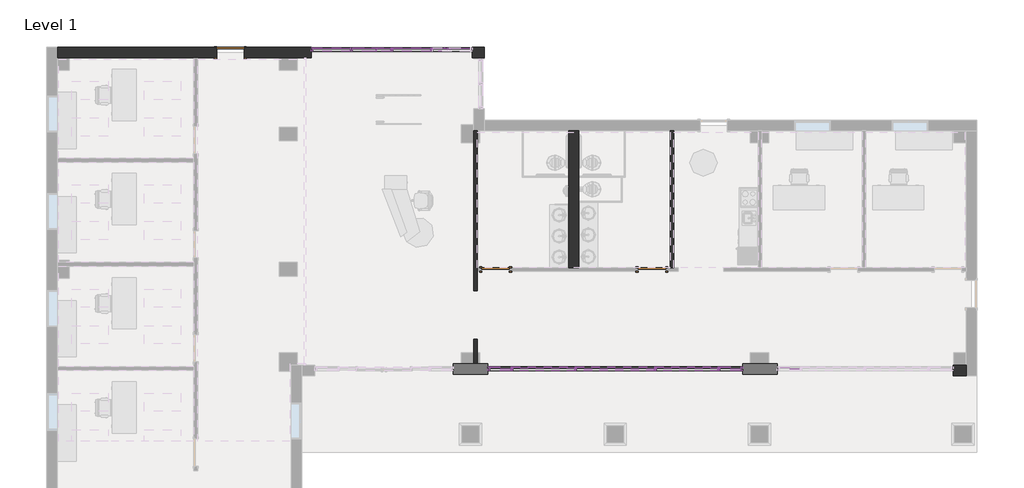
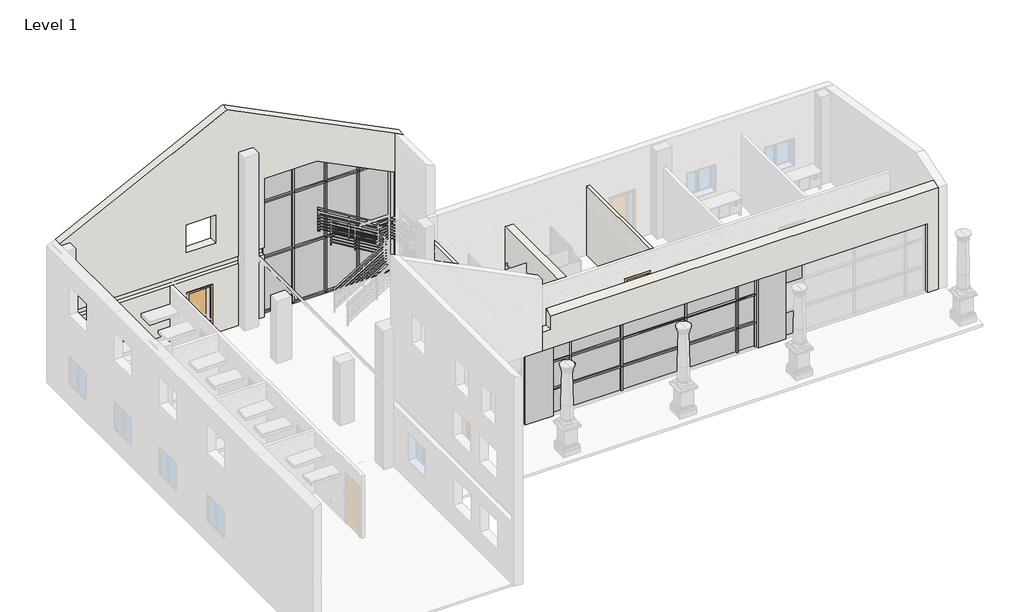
# One storey, part 2 of 8: 61 members, 31 plates, 6 walls, 3 doors.
"""IFC4 building model written with IfcOpenShell, lengths in millimetres."""

from ifc_helpers import new_model, si_unit, origin, origin_with_axes, place, context, project, spatial, polyline, outline, extrude, faceted_brep, transform, mapped, element, save
from components import door_cc5399a4, door_eb9f8b14, door_88503111, member_a715cb85, member_2b49869a, member_4f1c84db, member_e69b4e5a, member_c7c5a8a0, member_13dc6413, member_3374d9b6, member_830c086e, member_f0fea5a5, member_ee409385, member_d635bea1, member_5783932f, member_ba1b3d85, member_98b79ab6, member_75074519, member_badecc6f, member_07edb973, member_0f02f596, member_3c804400, member_398e82c5, member_1c7aa2bc, member_085bdbbf, system_panel_glazed_93fe6fa7, system_panel_glazed_6ce5e085, system_panel_glazed_63f474c4, system_panel_glazed_4b691734, system_panel_glazed_53b4157c, system_panel_glazed_7b5ce646, system_panel_glazed_b46f0795, system_panel_glazed_2dd6ead6, system_panel_glazed_6caac039, system_panel_glazed_878f6614, system_panel_glazed_8dfcc79d, system_panel_glazed_7753dd60, system_panel_glazed_25fb0b6d, system_panel_glazed_9d93dfa0, system_panel_glazed_35b7c7d0, system_panel_glazed_996dcb0c, system_panel_solid_fd037ff6, system_panel_solid_9d85a99c

model = new_model("IFC4")

# Units and contexts
model_context = context("Model", 3, world=origin())
ifc_project = project(units=[si_unit("LENGTHUNIT", "METRE", prefix="MILLI")], contexts=[model_context])

# Site, building, storey
site = spatial("IfcSite", under=ifc_project)
building = spatial("IfcBuilding", under=site)
storey = spatial("IfcBuildingStorey", under=building, Name="Level 1", Elevation=0.0)

# Doors
placement = place(None, origin())
door_shape = door_cc5399a4(model_context)
element("IfcDoor", 1, ObjectType="Single-Flush : 36\" x 84\"", at=placement, inside=storey, context=model_context, shape_type="MappedRepresentation", body=[
    mapped(door_shape, transform((-7789.3266552, 10744.9730424, 0.0), x_axis=(-1.0, 0.0, 0.0), y_axis=(0.0, -1.0, 0.0), z_axis=(0.0, 0.0, 1.0))),
])
door_2_shape = door_eb9f8b14(model_context)
element("IfcDoor", 2, ObjectType="Single-Flush : 36\" x 84\"", at=placement, inside=storey, context=model_context, shape_type="MappedRepresentation", body=[
    mapped(door_2_shape, transform((1075.2733448, 3496.4480424, 0.0), x_axis=(-1.0, 0.0, 0.0), y_axis=(0.0, -1.0, 0.0), z_axis=(0.0, 0.0, 1.0))),
])
door_3_shape = door_88503111(model_context)
element("IfcDoor", 3, ObjectType="Single-Flush : 36\" x 84\"", at=placement, inside=storey, context=model_context, shape_type="MappedRepresentation", body=[
    mapped(door_3_shape, transform((6294.9733448, 3496.4480424, 0.0), x_axis=(1.0, 0.0, 0.0), y_axis=(0.0, 1.0, 0.0), z_axis=(0.0, 0.0, 1.0))),
])

# Members
member_shape = member_a715cb85(model_context)
element("IfcMember", 4, ObjectType="Rectangular Mullion : 2.5\" x 5\" Rectangular", at=placement, inside=storey, context=model_context, shape_type="MappedRepresentation", body=[
    mapped(member_shape, transform((1611.8483448, 175.3980424, 0.0), x_axis=(1.0, 0.0, 0.0), y_axis=(0.0, -1.0, 0.0), z_axis=(0.0, 0.0, -1.0))),
])
element("IfcMember", 5, ObjectType="Rectangular Mullion : 2.5\" x 5\" Rectangular", at=placement, inside=storey, context=model_context, shape_type="MappedRepresentation", body=[
    mapped(member_shape, transform((3745.4483448, 175.3980424, 0.0), x_axis=(1.0, 0.0, 0.0), y_axis=(0.0, -1.0, 0.0), z_axis=(0.0, 0.0, -1.0))),
])
element("IfcMember", 6, ObjectType="Rectangular Mullion : 2.5\" x 5\" Rectangular", at=placement, inside=storey, context=model_context, shape_type="MappedRepresentation", body=[
    mapped(member_shape, transform((6404.5108448, 175.3980424, 0.0), x_axis=(1.0, 0.0, 0.0), y_axis=(0.0, -1.0, 0.0), z_axis=(0.0, 0.0, -1.0))),
])
element("IfcMember", 7, ObjectType="Rectangular Mullion : 2.5\" x 5\" Rectangular", at=placement, inside=storey, context=model_context, shape_type="MappedRepresentation", body=[
    mapped(member_shape, transform((849.8483448, 175.3980424, 0.0), x_axis=(1.0, 0.0, 0.0), y_axis=(0.0, -1.0, 0.0), z_axis=(0.0, 0.0, -1.0))),
])
element("IfcMember", 8, ObjectType="Rectangular Mullion : 2.5\" x 5\" Rectangular", at=placement, inside=storey, context=model_context, shape_type="MappedRepresentation", body=[
    mapped(member_shape, transform((8538.1108448, 175.3980424, 0.0), x_axis=(1.0, 0.0, 0.0), y_axis=(0.0, -1.0, 0.0), z_axis=(0.0, 0.0, -1.0))),
])
element("IfcMember", 9, ObjectType="Rectangular Mullion : 2.5\" x 5\" Rectangular", at=placement, inside=storey, context=model_context, shape_type="MappedRepresentation", body=[
    mapped(member_shape, transform((9300.1108448, 175.3980424, 0.0), x_axis=(1.0, 0.0, 0.0), y_axis=(0.0, -1.0, 0.0), z_axis=(0.0, 0.0, -1.0))),
])
member_2_shape = member_2b49869a(model_context)
element("IfcMember", 10, ObjectType="Rectangular Mullion : 2.5\" x 5\" Rectangular", at=placement, inside=storey, context=model_context, shape_type="MappedRepresentation", body=[
    mapped(member_2_shape, transform((1611.8483448, 175.3980424, 1066.8), x_axis=(1.0, 0.0, 0.0), y_axis=(0.0, -1.0, 0.0), z_axis=(0.0, 0.0, -1.0))),
])
element("IfcMember", 11, ObjectType="Rectangular Mullion : 2.5\" x 5\" Rectangular", at=placement, inside=storey, context=model_context, shape_type="MappedRepresentation", body=[
    mapped(member_2_shape, transform((3745.4483448, 175.3980424, 1066.8), x_axis=(1.0, 0.0, 0.0), y_axis=(0.0, -1.0, 0.0), z_axis=(0.0, 0.0, -1.0))),
])
element("IfcMember", 12, ObjectType="Rectangular Mullion : 2.5\" x 5\" Rectangular", at=placement, inside=storey, context=model_context, shape_type="MappedRepresentation", body=[
    mapped(member_2_shape, transform((6404.5108448, 175.3980424, 1066.8), x_axis=(1.0, 0.0, 0.0), y_axis=(0.0, -1.0, 0.0), z_axis=(0.0, 0.0, -1.0))),
])
element("IfcMember", 13, ObjectType="Rectangular Mullion : 2.5\" x 5\" Rectangular", at=placement, inside=storey, context=model_context, shape_type="MappedRepresentation", body=[
    mapped(member_2_shape, transform((849.8483448, 175.3980424, 1066.8), x_axis=(1.0, 0.0, 0.0), y_axis=(0.0, -1.0, 0.0), z_axis=(0.0, 0.0, -1.0))),
])
element("IfcMember", 14, ObjectType="Rectangular Mullion : 2.5\" x 5\" Rectangular", at=placement, inside=storey, context=model_context, shape_type="MappedRepresentation", body=[
    mapped(member_2_shape, transform((8538.1108448, 175.3980424, 1066.8), x_axis=(1.0, 0.0, 0.0), y_axis=(0.0, -1.0, 0.0), z_axis=(0.0, 0.0, -1.0))),
])
element("IfcMember", 15, ObjectType="Rectangular Mullion : 2.5\" x 5\" Rectangular", at=placement, inside=storey, context=model_context, shape_type="MappedRepresentation", body=[
    mapped(member_2_shape, transform((9300.1108448, 175.3980424, 1066.8), x_axis=(1.0, 0.0, 0.0), y_axis=(0.0, -1.0, 0.0), z_axis=(0.0, 0.0, -1.0))),
])
member_3_shape = member_4f1c84db(model_context)
element("IfcMember", 16, ObjectType="Rectangular Mullion : 2.5\" x 5\" Rectangular", at=placement, inside=storey, context=model_context, shape_type="MappedRepresentation", body=[
    mapped(member_3_shape, transform((3713.6983448, 175.3980424, 2286.0), x_axis=(0.0, 0.0, 1.0), y_axis=(0.0, -1.0, 0.0), z_axis=(1.0, 0.0, 0.0))),
])
element("IfcMember", 17, ObjectType="Rectangular Mullion : 2.5\" x 5\" Rectangular", at=placement, inside=storey, context=model_context, shape_type="MappedRepresentation", body=[
    mapped(member_3_shape, transform((8506.3608448, 175.3980424, 2286.0), x_axis=(0.0, 0.0, 1.0), y_axis=(0.0, -1.0, 0.0), z_axis=(1.0, 0.0, 0.0))),
])
element("IfcMember", 18, ObjectType="Rectangular Mullion : 2.5\" x 5\" Rectangular", at=placement, inside=storey, context=model_context, shape_type="MappedRepresentation", body=[
    mapped(member_3_shape, transform((8506.3608448, 175.3980424, 1066.8), x_axis=(0.0, 0.0, 1.0), y_axis=(0.0, -1.0, 0.0), z_axis=(1.0, 0.0, 0.0))),
])
element("IfcMember", 19, ObjectType="Rectangular Mullion : 2.5\" x 5\" Rectangular", at=placement, inside=storey, context=model_context, shape_type="MappedRepresentation", body=[
    mapped(member_3_shape, transform((3713.6983448, 175.3980424, 1066.8), x_axis=(0.0, 0.0, 1.0), y_axis=(0.0, -1.0, 0.0), z_axis=(1.0, 0.0, 0.0))),
])
member_4_shape = member_e69b4e5a(model_context)
element("IfcMember", 20, ObjectType="Rectangular Mullion : 2.5\" x 5\" Rectangular", at=placement, inside=storey, context=model_context, shape_type="MappedRepresentation", body=[
    mapped(member_4_shape, transform((6372.7608448, 175.3980424, 2286.0), x_axis=(0.0, 0.0, 1.0), y_axis=(0.0, -1.0, 0.0), z_axis=(1.0, 0.0, 0.0))),
])
element("IfcMember", 21, ObjectType="Rectangular Mullion : 2.5\" x 5\" Rectangular", at=placement, inside=storey, context=model_context, shape_type="MappedRepresentation", body=[
    mapped(member_4_shape, transform((6372.7608448, 175.3980424, 1066.8), x_axis=(0.0, 0.0, 1.0), y_axis=(0.0, -1.0, 0.0), z_axis=(1.0, 0.0, 0.0))),
])
member_5_shape = member_c7c5a8a0(model_context)
element("IfcMember", 22, ObjectType="Rectangular Mullion : 2.5\" x 5\" Rectangular", at=placement, inside=storey, context=model_context, shape_type="MappedRepresentation", body=[
    mapped(member_5_shape, transform((1580.0983448, 175.3980424, 2286.0), x_axis=(0.0, 0.0, 1.0), y_axis=(0.0, -1.0, 0.0), z_axis=(1.0, 0.0, 0.0))),
])
element("IfcMember", 23, ObjectType="Rectangular Mullion : 2.5\" x 5\" Rectangular", at=placement, inside=storey, context=model_context, shape_type="MappedRepresentation", body=[
    mapped(member_5_shape, transform((9268.3608448, 175.3980424, 2286.0), x_axis=(0.0, 0.0, 1.0), y_axis=(0.0, -1.0, 0.0), z_axis=(1.0, 0.0, 0.0))),
])
element("IfcMember", 24, ObjectType="Rectangular Mullion : 2.5\" x 5\" Rectangular", at=placement, inside=storey, context=model_context, shape_type="MappedRepresentation", body=[
    mapped(member_5_shape, transform((1580.0983448, 175.3980424, 1066.8), x_axis=(0.0, 0.0, 1.0), y_axis=(0.0, -1.0, 0.0), z_axis=(1.0, 0.0, 0.0))),
])
element("IfcMember", 25, ObjectType="Rectangular Mullion : 2.5\" x 5\" Rectangular", at=placement, inside=storey, context=model_context, shape_type="MappedRepresentation", body=[
    mapped(member_5_shape, transform((9268.3608448, 175.3980424, 1066.8), x_axis=(0.0, 0.0, 1.0), y_axis=(0.0, -1.0, 0.0), z_axis=(1.0, 0.0, 0.0))),
])
element("IfcMember", 26, ObjectType="Rectangular Mullion : 2.5\" x 5\" Rectangular", at=placement, inside=storey, context=model_context, shape_type="MappedRepresentation", body=[
    mapped(member_5_shape, transform((1611.8483448, 175.3980424, 2286.0), x_axis=(1.0, 0.0, 0.0), y_axis=(0.0, -1.0, 0.0), z_axis=(0.0, 0.0, -1.0))),
])
element("IfcMember", 27, ObjectType="Rectangular Mullion : 2.5\" x 5\" Rectangular", at=placement, inside=storey, context=model_context, shape_type="MappedRepresentation", body=[
    mapped(member_5_shape, transform((3745.4483448, 175.3980424, 2286.0), x_axis=(1.0, 0.0, 0.0), y_axis=(0.0, -1.0, 0.0), z_axis=(0.0, 0.0, -1.0))),
])
element("IfcMember", 28, ObjectType="Rectangular Mullion : 2.5\" x 5\" Rectangular", at=placement, inside=storey, context=model_context, shape_type="MappedRepresentation", body=[
    mapped(member_5_shape, transform((6404.5108448, 175.3980424, 2286.0), x_axis=(1.0, 0.0, 0.0), y_axis=(0.0, -1.0, 0.0), z_axis=(0.0, 0.0, -1.0))),
])
element("IfcMember", 29, ObjectType="Rectangular Mullion : 2.5\" x 5\" Rectangular", at=placement, inside=storey, context=model_context, shape_type="MappedRepresentation", body=[
    mapped(member_5_shape, transform((849.8483448, 175.3980424, 2286.0), x_axis=(1.0, 0.0, 0.0), y_axis=(0.0, -1.0, 0.0), z_axis=(0.0, 0.0, -1.0))),
])
element("IfcMember", 30, ObjectType="Rectangular Mullion : 2.5\" x 5\" Rectangular", at=placement, inside=storey, context=model_context, shape_type="MappedRepresentation", body=[
    mapped(member_5_shape, transform((8538.1108448, 175.3980424, 2286.0), x_axis=(1.0, 0.0, 0.0), y_axis=(0.0, -1.0, 0.0), z_axis=(0.0, 0.0, -1.0))),
])
element("IfcMember", 31, ObjectType="Rectangular Mullion : 2.5\" x 5\" Rectangular", at=placement, inside=storey, context=model_context, shape_type="MappedRepresentation", body=[
    mapped(member_5_shape, transform((9300.1108448, 175.3980424, 2286.0), x_axis=(1.0, 0.0, 0.0), y_axis=(0.0, -1.0, 0.0), z_axis=(0.0, 0.0, -1.0))),
])
member_6_shape = member_13dc6413(model_context)
element("IfcMember", 32, ObjectType="Rectangular Mullion : 2.5\" x 5\" Rectangular", at=placement, inside=storey, context=model_context, shape_type="MappedRepresentation", body=[
    mapped(member_6_shape, transform((9331.8608448, 175.3980424, 3048.0), x_axis=(0.0, 0.0, 1.0), y_axis=(0.0, -1.0, 0.0), z_axis=(1.0, 0.0, 0.0))),
])
element("IfcMember", 33, ObjectType="Rectangular Mullion : 2.5\" x 5\" Rectangular", at=placement, inside=storey, context=model_context, shape_type="MappedRepresentation", body=[
    mapped(member_6_shape, transform((1611.8483448, 175.3980424, 3048.0), x_axis=(0.0, 0.0, 1.0), y_axis=(0.0, -1.0, 0.0), z_axis=(1.0, 0.0, 0.0))),
])
member_7_shape = member_3374d9b6(model_context)
element("IfcMember", 34, ObjectType="Rectangular Mullion : 2.5\" x 5\" Rectangular", at=placement, inside=storey, context=model_context, shape_type="MappedRepresentation", body=[
    mapped(member_7_shape, transform((3745.4483448, 175.3980424, 3048.0), x_axis=(0.0, 0.0, 1.0), y_axis=(0.0, -1.0, 0.0), z_axis=(1.0, 0.0, 0.0))),
])
element("IfcMember", 35, ObjectType="Rectangular Mullion : 2.5\" x 5\" Rectangular", at=placement, inside=storey, context=model_context, shape_type="MappedRepresentation", body=[
    mapped(member_7_shape, transform((8538.1108448, 175.3980424, 3048.0), x_axis=(0.0, 0.0, 1.0), y_axis=(0.0, -1.0, 0.0), z_axis=(1.0, 0.0, 0.0))),
])
member_8_shape = member_830c086e(model_context)
element("IfcMember", 36, ObjectType="Rectangular Mullion : 2.5\" x 5\" Rectangular", at=placement, inside=storey, context=model_context, shape_type="MappedRepresentation", body=[
    mapped(member_8_shape, transform((6404.5108448, 175.3980424, 3048.0), x_axis=(0.0, 0.0, 1.0), y_axis=(0.0, -1.0, 0.0), z_axis=(1.0, 0.0, 0.0))),
])
member_9_shape = member_f0fea5a5(model_context)
element("IfcMember", 37, ObjectType="Rectangular Mullion : 2.5\" x 5\" Rectangular", at=placement, inside=storey, context=model_context, shape_type="MappedRepresentation", body=[
    mapped(member_9_shape, transform((-3747.5516552, 10846.5730424, 0.0), x_axis=(1.0, 0.0, 0.0), y_axis=(0.0, -1.0, 0.0), z_axis=(0.0, 0.0, -1.0))),
])
element("IfcMember", 38, ObjectType="Rectangular Mullion : 2.5\" x 5\" Rectangular", at=placement, inside=storey, context=model_context, shape_type="MappedRepresentation", body=[
    mapped(member_9_shape, transform((-2401.3516552, 10846.5730424, 0.0), x_axis=(1.0, 0.0, 0.0), y_axis=(0.0, -1.0, 0.0), z_axis=(0.0, 0.0, -1.0))),
])
element("IfcMember", 39, ObjectType="Rectangular Mullion : 2.5\" x 5\" Rectangular", at=placement, inside=storey, context=model_context, shape_type="MappedRepresentation", body=[
    mapped(member_9_shape, transform((-1055.1516552, 10846.5730424, 0.0), x_axis=(1.0, 0.0, 0.0), y_axis=(0.0, -1.0, 0.0), z_axis=(0.0, 0.0, -1.0))),
])
member_10_shape = member_ee409385(model_context)
element("IfcMember", 40, ObjectType="Rectangular Mullion : 2.5\" x 5\" Rectangular", at=placement, inside=storey, context=model_context, shape_type="MappedRepresentation", body=[
    mapped(member_10_shape, transform((-5093.7516552, 10846.5730424, 2438.4), x_axis=(-1.0, 0.0, 0.0), y_axis=(0.0, -1.0, 0.0), z_axis=(0.0, 0.0, 1.0))),
])
member_11_shape = member_d635bea1(model_context)
element("IfcMember", 41, ObjectType="Rectangular Mullion : 2.5\" x 5\" Rectangular", at=placement, inside=storey, context=model_context, shape_type="MappedRepresentation", body=[
    mapped(member_11_shape, transform((-5030.2516552, 10846.5730424, 0.0), x_axis=(0.0, 0.0, -1.0), y_axis=(0.0, -1.0, 0.0), z_axis=(-1.0, 0.0, 0.0))),
])
element("IfcMember", 42, ObjectType="Rectangular Mullion : 2.5\" x 5\" Rectangular", at=placement, inside=storey, context=model_context, shape_type="MappedRepresentation", body=[
    mapped(member_11_shape, transform((-1023.4016552, 10846.5730424, 0.0), x_axis=(0.0, 0.0, -1.0), y_axis=(0.0, -1.0, 0.0), z_axis=(-1.0, 0.0, 0.0))),
])
member_12_shape = member_5783932f(model_context)
element("IfcMember", 43, ObjectType="Rectangular Mullion : 2.5\" x 5\" Rectangular", at=placement, inside=storey, context=model_context, shape_type="MappedRepresentation", body=[
    mapped(member_12_shape, transform((-3715.8016552, 10846.5730424, 0.0), x_axis=(0.0, 0.0, -1.0), y_axis=(0.0, -1.0, 0.0), z_axis=(-1.0, 0.0, 0.0))),
])
element("IfcMember", 44, ObjectType="Rectangular Mullion : 2.5\" x 5\" Rectangular", at=placement, inside=storey, context=model_context, shape_type="MappedRepresentation", body=[
    mapped(member_12_shape, transform((-2369.6016552, 10846.5730424, 0.0), x_axis=(0.0, 0.0, -1.0), y_axis=(0.0, -1.0, 0.0), z_axis=(-1.0, 0.0, 0.0))),
])
member_13_shape = member_ba1b3d85(model_context)
element("IfcMember", 45, ObjectType="Rectangular Mullion : 2.5\" x 5\" Rectangular", at=placement, inside=storey, context=model_context, shape_type="MappedRepresentation", body=[
    mapped(member_13_shape, transform((-3779.3016552, 10846.5730424, 2438.4), x_axis=(0.0, 0.0, 1.0), y_axis=(0.0, -1.0, 0.0), z_axis=(1.0, 0.0, 0.0))),
])
element("IfcMember", 46, ObjectType="Rectangular Mullion : 2.5\" x 5\" Rectangular", at=placement, inside=storey, context=model_context, shape_type="MappedRepresentation", body=[
    mapped(member_13_shape, transform((-3779.3016552, 10846.5730424, 4876.8), x_axis=(0.0, 0.0, 1.0), y_axis=(0.0, -1.0, 0.0), z_axis=(1.0, 0.0, 0.0))),
])
member_14_shape = member_98b79ab6(model_context)
element("IfcMember", 47, ObjectType="Rectangular Mullion : 2.5\" x 5\" Rectangular", at=placement, inside=storey, context=model_context, shape_type="MappedRepresentation", body=[
    mapped(member_14_shape, transform((-2433.1016552, 10846.5730424, 2438.4), x_axis=(0.0, 0.0, 1.0), y_axis=(0.0, -1.0, 0.0), z_axis=(1.0, 0.0, 0.0))),
])
element("IfcMember", 48, ObjectType="Rectangular Mullion : 2.5\" x 5\" Rectangular", at=placement, inside=storey, context=model_context, shape_type="MappedRepresentation", body=[
    mapped(member_14_shape, transform((-1086.9016552, 10846.5730424, 2438.4), x_axis=(0.0, 0.0, 1.0), y_axis=(0.0, -1.0, 0.0), z_axis=(1.0, 0.0, 0.0))),
])
element("IfcMember", 49, ObjectType="Rectangular Mullion : 2.5\" x 5\" Rectangular", at=placement, inside=storey, context=model_context, shape_type="MappedRepresentation", body=[
    mapped(member_14_shape, transform((-2433.1016552, 10846.5730424, 4876.8), x_axis=(0.0, 0.0, 1.0), y_axis=(0.0, -1.0, 0.0), z_axis=(1.0, 0.0, 0.0))),
])
element("IfcMember", 50, ObjectType="Rectangular Mullion : 2.5\" x 5\" Rectangular", at=placement, inside=storey, context=model_context, shape_type="MappedRepresentation", body=[
    mapped(member_14_shape, transform((-1086.9016552, 10846.5730424, 4876.8), x_axis=(0.0, 0.0, 1.0), y_axis=(0.0, -1.0, 0.0), z_axis=(1.0, 0.0, 0.0))),
])
element("IfcMember", 51, ObjectType="Rectangular Mullion : 2.5\" x 5\" Rectangular", at=placement, inside=storey, context=model_context, shape_type="MappedRepresentation", body=[
    mapped(member_11_shape, transform((-3779.3016552, 10846.5730424, 6096.0), x_axis=(0.0, 0.0, 1.0), y_axis=(0.0, -1.0, 0.0), z_axis=(1.0, 0.0, 0.0))),
])
element("IfcMember", 52, ObjectType="Rectangular Mullion : 2.5\" x 5\" Rectangular", at=placement, inside=storey, context=model_context, shape_type="MappedRepresentation", body=[
    mapped(member_9_shape, transform((-3747.5516552, 10846.5730424, 2438.4), x_axis=(1.0, 0.0, 0.0), y_axis=(0.0, -1.0, 0.0), z_axis=(0.0, 0.0, -1.0))),
])
element("IfcMember", 53, ObjectType="Rectangular Mullion : 2.5\" x 5\" Rectangular", at=placement, inside=storey, context=model_context, shape_type="MappedRepresentation", body=[
    mapped(member_9_shape, transform((-2401.3516552, 10846.5730424, 2438.4), x_axis=(1.0, 0.0, 0.0), y_axis=(0.0, -1.0, 0.0), z_axis=(0.0, 0.0, -1.0))),
])
element("IfcMember", 54, ObjectType="Rectangular Mullion : 2.5\" x 5\" Rectangular", at=placement, inside=storey, context=model_context, shape_type="MappedRepresentation", body=[
    mapped(member_9_shape, transform((-1055.1516552, 10846.5730424, 2438.4), x_axis=(1.0, 0.0, 0.0), y_axis=(0.0, -1.0, 0.0), z_axis=(0.0, 0.0, -1.0))),
])
element("IfcMember", 55, ObjectType="Rectangular Mullion : 2.5\" x 5\" Rectangular", at=placement, inside=storey, context=model_context, shape_type="MappedRepresentation", body=[
    mapped(member_2_shape, transform((-3747.5516552, 10846.5730424, 4876.8), x_axis=(1.0, 0.0, 0.0), y_axis=(0.0, -1.0, 0.0), z_axis=(0.0, 0.0, -1.0))),
])
member_15_shape = member_75074519(model_context)
element("IfcMember", 56, ObjectType="Rectangular Mullion : 2.5\" x 5\" Rectangular", at=placement, inside=storey, context=model_context, shape_type="MappedRepresentation", body=[
    mapped(member_15_shape, transform((-5093.7516552, 10846.5730424, 6096.0), x_axis=(-1.0, 0.0, 0.0), y_axis=(0.0, -1.0, 0.0), z_axis=(0.0, 0.0, 1.0))),
])
element("IfcMember", 57, ObjectType="Rectangular Mullion : 2.5\" x 5\" Rectangular", at=placement, inside=storey, context=model_context, shape_type="MappedRepresentation", body=[
    mapped(member_10_shape, transform((-5093.7516552, 10846.5730424, 4876.8), x_axis=(-1.0, 0.0, 0.0), y_axis=(0.0, -1.0, 0.0), z_axis=(0.0, 0.0, 1.0))),
])
member_16_shape = member_badecc6f(model_context)
element("IfcMember", 58, ObjectType="Rectangular Mullion : 2.5\" x 5\" Rectangular", at=placement, inside=storey, context=model_context, shape_type="MappedRepresentation", body=[
    mapped(member_16_shape, transform((-2900.8192529, 10846.5730424, 6096.0), x_axis=(0.0, 0.0, 1.0), y_axis=(0.0, -1.0, 0.0), z_axis=(1.0, 0.0, 0.0))),
])
member_17_shape = member_07edb973(model_context)
element("IfcMember", 59, ObjectType="Rectangular Mullion : 2.5\" x 5\" Rectangular", at=placement, inside=storey, context=model_context, shape_type="MappedRepresentation", body=[
    mapped(member_17_shape, transform((-2401.3516552, 10846.5730424, 4876.8), x_axis=(1.0, 0.0, 0.0), y_axis=(0.0, -1.0, 0.0), z_axis=(0.0, 0.0, -1.0))),
])
member_18_shape = member_0f02f596(model_context)
element("IfcMember", 60, ObjectType="Rectangular Mullion : 2.5\" x 5\" Rectangular", at=placement, inside=storey, context=model_context, shape_type="MappedRepresentation", body=[
    mapped(member_18_shape, transform((-1055.1516552, 10846.5730424, 4876.8), x_axis=(1.0, 0.0, 0.0), y_axis=(0.0, -1.0, 0.0), z_axis=(0.0, 0.0, -1.0))),
])
member_19_shape = member_3c804400(model_context)
element("IfcMember", 61, ObjectType="Rectangular Mullion : 2.5\" x 5\" Rectangular", at=placement, inside=storey, context=model_context, shape_type="MappedRepresentation", body=[
    mapped(member_19_shape, transform((-462.4192529, 10846.5730424, 4876.8), x_axis=(0.0, 0.0, 1.0), y_axis=(0.0, -1.0, 0.0), z_axis=(1.0, 0.0, 0.0))),
])
member_20_shape = member_398e82c5(model_context)
element("IfcMember", 62, ObjectType="Rectangular Mullion : 2.5\" x 5\" Rectangular", at=placement, inside=storey, context=model_context, shape_type="MappedRepresentation", body=[
    mapped(member_20_shape, transform((-2401.3516552, 10846.5730424, 5846.2662011), x_axis=(0.44721359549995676, 0.0, 0.8944271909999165), y_axis=(0.0, -1.0, 0.0), z_axis=(0.8944271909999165, 0.0, -0.44721359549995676))),
])
member_21_shape = member_1c7aa2bc(model_context)
element("IfcMember", 63, ObjectType="Rectangular Mullion : 2.5\" x 5\" Rectangular", at=placement, inside=storey, context=model_context, shape_type="MappedRepresentation", body=[
    mapped(member_21_shape, transform((-1055.1516552, 10846.5730424, 5173.1662011), x_axis=(0.44721359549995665, 0.0, 0.8944271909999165), y_axis=(0.0, -1.0, 0.0), z_axis=(0.8944271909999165, 0.0, -0.44721359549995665))),
])
member_22_shape = member_085bdbbf(model_context)
element("IfcMember", 64, ObjectType="Rectangular Mullion : 2.5\" x 5\" Rectangular", at=placement, inside=storey, context=model_context, shape_type="MappedRepresentation", body=[
    mapped(member_22_shape, transform((-462.4192529, 10846.5730424, 4876.8), x_axis=(0.4472135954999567, 0.0, 0.8944271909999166), y_axis=(0.0, -1.0, 0.0), z_axis=(0.8944271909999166, 0.0, -0.4472135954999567))),
])

# Plates
element("IfcPlate", 65, ObjectType="Exterior - Brick on Mtl. Stud", at=placement, inside=storey, context=model_context, shape_type="Brep", body=[
    faceted_brep([(-337.6016552, -0.8144576, 0.0), (818.0983448, -0.8144576, 0.0), (818.0983448, -0.8144576, 3048.0), (-337.6016552, -0.8144576, 3048.0), (-337.6016552, 351.6105424, 0.0), (-337.6016552, 351.6105424, 3048.0), (-67.7266552, 351.6105424, 3048.0), (341.8483448, 351.6105424, 3048.0), (465.6733448, 351.6105424, 3048.0), (541.8733448, 351.6105424, 3048.0), (818.0983448, 351.6105424, 3048.0), (818.0983448, 351.6105424, 0.0), (541.8733448, 351.6105424, 0.0), (465.6733448, 351.6105424, 0.0), (341.8483448, 351.6105424, 0.0), (-67.7266552, 351.6105424, 0.0)], [[[0, 1, 2, 3]], [[4, 5, 6, 7, 8, 9, 10, 11, 12, 13, 14, 15]], [[1, 0, 4, 15, 14, 13, 12, 11]], [[2, 1, 11, 10]], [[3, 2, 10, 9, 8, 7, 6, 5]], [[0, 3, 5, 4]]]),
])
element("IfcPlate", 66, ObjectType="Exterior - Brick on Mtl. Stud", at=placement, inside=storey, context=model_context, shape_type="Brep", body=[
    faceted_brep([(9331.8608448, -0.8144576, 0.0), (10487.5608448, -0.8144576, 0.0), (10487.5608448, -0.8144576, 3048.0), (9331.8608448, -0.8144576, 3048.0), (9331.8608448, 351.6105424, 0.0), (9331.8608448, 351.6105424, 3048.0), (9587.4483448, 351.6105424, 3048.0), (10197.0483448, 351.6105424, 3048.0), (10487.5608448, 351.6105424, 3048.0), (10487.5608448, 351.6105424, 0.0), (10197.0483448, 351.6105424, 0.0), (9587.4483448, 351.6105424, 0.0)], [[[0, 1, 2, 3]], [[4, 5, 6, 7, 8, 9, 10, 11]], [[1, 0, 4, 11, 10, 9]], [[2, 1, 9, 8]], [[3, 2, 8, 7, 6, 5]], [[0, 3, 5, 4]]]),
])
system_panel_glazed_shape = system_panel_glazed_93fe6fa7(model_context)
element("IfcPlate", 67, ObjectType="System Panel : Glazed", at=placement, inside=storey, context=model_context, shape_type="MappedRepresentation", body=[
    mapped(system_panel_glazed_shape, transform((2678.6483448, 175.3980424, 0.0), x_axis=(1.0, 0.0, 0.0), y_axis=(0.0, 1.0, 0.0), z_axis=(0.0, 0.0, 1.0))),
])
element("IfcPlate", 68, ObjectType="System Panel : Glazed", at=placement, inside=storey, context=model_context, shape_type="MappedRepresentation", body=[
    mapped(system_panel_glazed_shape, transform((7471.3108448, 175.3980424, 0.0), x_axis=(1.0, 0.0, 0.0), y_axis=(0.0, 1.0, 0.0), z_axis=(0.0, 0.0, 1.0))),
])
system_panel_glazed_2_shape = system_panel_glazed_6ce5e085(model_context)
element("IfcPlate", 69, ObjectType="System Panel : Glazed", at=placement, inside=storey, context=model_context, shape_type="MappedRepresentation", body=[
    mapped(system_panel_glazed_2_shape, transform((2678.6483448, 175.3980424, 1098.55), x_axis=(1.0, 0.0, 0.0), y_axis=(0.0, 1.0, 0.0), z_axis=(0.0, 0.0, 1.0))),
])
element("IfcPlate", 70, ObjectType="System Panel : Glazed", at=placement, inside=storey, context=model_context, shape_type="MappedRepresentation", body=[
    mapped(system_panel_glazed_2_shape, transform((7471.3108448, 175.3980424, 1098.55), x_axis=(1.0, 0.0, 0.0), y_axis=(0.0, 1.0, 0.0), z_axis=(0.0, 0.0, 1.0))),
])
system_panel_glazed_3_shape = system_panel_glazed_63f474c4(model_context)
element("IfcPlate", 71, ObjectType="System Panel : Glazed", at=placement, inside=storey, context=model_context, shape_type="MappedRepresentation", body=[
    mapped(system_panel_glazed_3_shape, transform((5074.9795948, 175.3980424, 0.0), x_axis=(1.0, 0.0, 0.0), y_axis=(0.0, 1.0, 0.0), z_axis=(0.0, 0.0, 1.0))),
])
system_panel_glazed_4_shape = system_panel_glazed_4b691734(model_context)
element("IfcPlate", 72, ObjectType="System Panel : Glazed", at=placement, inside=storey, context=model_context, shape_type="MappedRepresentation", body=[
    mapped(system_panel_glazed_4_shape, transform((5074.9795948, 175.3980424, 1098.55), x_axis=(1.0, 0.0, 0.0), y_axis=(0.0, 1.0, 0.0), z_axis=(0.0, 0.0, 1.0))),
])
system_panel_glazed_5_shape = system_panel_glazed_53b4157c(model_context)
element("IfcPlate", 73, ObjectType="System Panel : Glazed", at=placement, inside=storey, context=model_context, shape_type="MappedRepresentation", body=[
    mapped(system_panel_glazed_5_shape, transform((1230.8483448, 175.3980424, 0.0), x_axis=(1.0, 0.0, 0.0), y_axis=(0.0, 1.0, 0.0), z_axis=(0.0, 0.0, 1.0))),
])
element("IfcPlate", 74, ObjectType="System Panel : Glazed", at=placement, inside=storey, context=model_context, shape_type="MappedRepresentation", body=[
    mapped(system_panel_glazed_5_shape, transform((10900.3108448, 175.3980424, 0.0), x_axis=(1.0, 0.0, 0.0), y_axis=(0.0, 1.0, 0.0), z_axis=(0.0, 0.0, 1.0))),
])
element("IfcPlate", 75, ObjectType="System Panel : Glazed", at=placement, inside=storey, context=model_context, shape_type="MappedRepresentation", body=[
    mapped(system_panel_glazed_5_shape, transform((8919.1108448, 175.3980424, 0.0), x_axis=(1.0, 0.0, 0.0), y_axis=(0.0, 1.0, 0.0), z_axis=(0.0, 0.0, 1.0))),
])
system_panel_glazed_6_shape = system_panel_glazed_7b5ce646(model_context)
element("IfcPlate", 76, ObjectType="System Panel : Glazed", at=placement, inside=storey, context=model_context, shape_type="MappedRepresentation", body=[
    mapped(system_panel_glazed_6_shape, transform((1230.8483448, 175.3980424, 1098.55), x_axis=(1.0, 0.0, 0.0), y_axis=(0.0, 1.0, 0.0), z_axis=(0.0, 0.0, 1.0))),
])
element("IfcPlate", 77, ObjectType="System Panel : Glazed", at=placement, inside=storey, context=model_context, shape_type="MappedRepresentation", body=[
    mapped(system_panel_glazed_6_shape, transform((8919.1108448, 175.3980424, 1098.55), x_axis=(1.0, 0.0, 0.0), y_axis=(0.0, 1.0, 0.0), z_axis=(0.0, 0.0, 1.0))),
])
system_panel_glazed_7_shape = system_panel_glazed_b46f0795(model_context)
element("IfcPlate", 78, ObjectType="System Panel : Glazed", at=placement, inside=storey, context=model_context, shape_type="MappedRepresentation", body=[
    mapped(system_panel_glazed_7_shape, transform((2678.6483448, 175.3980424, 2317.75), x_axis=(1.0, 0.0, 0.0), y_axis=(0.0, 1.0, 0.0), z_axis=(0.0, 0.0, 1.0))),
])
element("IfcPlate", 79, ObjectType="System Panel : Glazed", at=placement, inside=storey, context=model_context, shape_type="MappedRepresentation", body=[
    mapped(system_panel_glazed_7_shape, transform((7471.3108448, 175.3980424, 2317.75), x_axis=(1.0, 0.0, 0.0), y_axis=(0.0, 1.0, 0.0), z_axis=(0.0, 0.0, 1.0))),
])
system_panel_glazed_8_shape = system_panel_glazed_2dd6ead6(model_context)
element("IfcPlate", 80, ObjectType="System Panel : Glazed", at=placement, inside=storey, context=model_context, shape_type="MappedRepresentation", body=[
    mapped(system_panel_glazed_8_shape, transform((-4404.7766552, 10846.5730424, 63.5), x_axis=(1.0, 0.0, 0.0), y_axis=(0.0, 1.0, 0.0), z_axis=(0.0, 0.0, 1.0))),
])
element("IfcPlate", 81, ObjectType="System Panel : Glazed", at=placement, inside=storey, context=model_context, shape_type="MappedRepresentation", body=[
    mapped(system_panel_glazed_8_shape, transform((-397.9266552, 10846.5730424, 63.5), x_axis=(1.0, 0.0, 0.0), y_axis=(0.0, 1.0, 0.0), z_axis=(0.0, 0.0, 1.0))),
])
system_panel_glazed_9_shape = system_panel_glazed_6caac039(model_context)
element("IfcPlate", 82, ObjectType="System Panel : Glazed", at=placement, inside=storey, context=model_context, shape_type="MappedRepresentation", body=[
    mapped(system_panel_glazed_9_shape, transform((-3074.4516552, 10846.5730424, 63.5), x_axis=(1.0, 0.0, 0.0), y_axis=(0.0, 1.0, 0.0), z_axis=(0.0, 0.0, 1.0))),
])
element("IfcPlate", 83, ObjectType="System Panel : Glazed", at=placement, inside=storey, context=model_context, shape_type="MappedRepresentation", body=[
    mapped(system_panel_glazed_9_shape, transform((-1728.2516552, 10846.5730424, 63.5), x_axis=(1.0, 0.0, 0.0), y_axis=(0.0, 1.0, 0.0), z_axis=(0.0, 0.0, 1.0))),
])
system_panel_glazed_10_shape = system_panel_glazed_878f6614(model_context)
element("IfcPlate", 84, ObjectType="System Panel : Glazed", at=placement, inside=storey, context=model_context, shape_type="MappedRepresentation", body=[
    mapped(system_panel_glazed_10_shape, transform((-4404.7766552, 10846.5730424, 2470.15), x_axis=(1.0, 0.0, 0.0), y_axis=(0.0, 1.0, 0.0), z_axis=(0.0, 0.0, 1.0))),
])
system_panel_glazed_11_shape = system_panel_glazed_8dfcc79d(model_context)
element("IfcPlate", 85, ObjectType="System Panel : Glazed", at=placement, inside=storey, context=model_context, shape_type="MappedRepresentation", body=[
    mapped(system_panel_glazed_11_shape, transform((-3074.4516552, 10846.5730424, 2470.15), x_axis=(1.0, 0.0, 0.0), y_axis=(0.0, 1.0, 0.0), z_axis=(0.0, 0.0, 1.0))),
])
element("IfcPlate", 86, ObjectType="System Panel : Glazed", at=placement, inside=storey, context=model_context, shape_type="MappedRepresentation", body=[
    mapped(system_panel_glazed_11_shape, transform((-1728.2516552, 10846.5730424, 2470.15), x_axis=(1.0, 0.0, 0.0), y_axis=(0.0, 1.0, 0.0), z_axis=(0.0, 0.0, 1.0))),
])
system_panel_glazed_12_shape = system_panel_glazed_7753dd60(model_context)
element("IfcPlate", 87, ObjectType="System Panel : Glazed", at=placement, inside=storey, context=model_context, shape_type="MappedRepresentation", body=[
    mapped(system_panel_glazed_12_shape, transform((-4404.7766552, 10846.5730424, 4908.55), x_axis=(1.0, 0.0, 0.0), y_axis=(0.0, 1.0, 0.0), z_axis=(0.0, 0.0, 1.0))),
])
system_panel_glazed_13_shape = system_panel_glazed_25fb0b6d(model_context)
element("IfcPlate", 88, ObjectType="System Panel : Glazed", at=placement, inside=storey, context=model_context, shape_type="MappedRepresentation", body=[
    mapped(system_panel_glazed_13_shape, transform((-397.9266552, 10846.5730424, 2470.15), x_axis=(1.0, 0.0, 0.0), y_axis=(0.0, 1.0, 0.0), z_axis=(0.0, 0.0, 1.0))),
])
system_panel_glazed_14_shape = system_panel_glazed_9d93dfa0(model_context)
element("IfcPlate", 89, ObjectType="System Panel : Glazed", at=placement, inside=storey, context=model_context, shape_type="MappedRepresentation", body=[
    mapped(system_panel_glazed_14_shape, transform((-3074.4516552, 10846.5730424, 4908.55), x_axis=(1.0, 0.0, 0.0), y_axis=(0.0, 1.0, 0.0), z_axis=(0.0, 0.0, 1.0))),
])
system_panel_glazed_15_shape = system_panel_glazed_35b7c7d0(model_context)
element("IfcPlate", 90, ObjectType="System Panel : Glazed", at=placement, inside=storey, context=model_context, shape_type="MappedRepresentation", body=[
    mapped(system_panel_glazed_15_shape, transform((-1728.2516552, 10846.5730424, 4908.55), x_axis=(1.0, 0.0, 0.0), y_axis=(0.0, 1.0, 0.0), z_axis=(0.0, 0.0, 1.0))),
])
system_panel_glazed_16_shape = system_panel_glazed_996dcb0c(model_context)
element("IfcPlate", 91, ObjectType="System Panel : Glazed", at=placement, inside=storey, context=model_context, shape_type="MappedRepresentation", body=[
    mapped(system_panel_glazed_16_shape, transform((-845.6556123, 10846.5730424, 4908.55), x_axis=(1.0, 0.0, 0.0), y_axis=(0.0, 1.0, 0.0), z_axis=(0.0, 0.0, 1.0))),
])
system_panel_solid_shape = system_panel_solid_fd037ff6(model_context)
element("IfcPlate", 92, ObjectType="System Panel : Solid", at=placement, inside=storey, context=model_context, shape_type="MappedRepresentation", body=[
    mapped(system_panel_solid_shape, transform((1230.8483448, 175.3980424, 2317.75), x_axis=(1.0, 0.0, 0.0), y_axis=(0.0, 1.0, 0.0), z_axis=(0.0, 0.0, 1.0))),
])
element("IfcPlate", 93, ObjectType="System Panel : Solid", at=placement, inside=storey, context=model_context, shape_type="MappedRepresentation", body=[
    mapped(system_panel_solid_shape, transform((10900.3108448, 175.3980424, 2317.75), x_axis=(1.0, 0.0, 0.0), y_axis=(0.0, 1.0, 0.0), z_axis=(0.0, 0.0, 1.0))),
])
element("IfcPlate", 94, ObjectType="System Panel : Solid", at=placement, inside=storey, context=model_context, shape_type="MappedRepresentation", body=[
    mapped(system_panel_solid_shape, transform((8919.1108448, 175.3980424, 2317.75), x_axis=(1.0, 0.0, 0.0), y_axis=(0.0, 1.0, 0.0), z_axis=(0.0, 0.0, 1.0))),
])
system_panel_solid_2_shape = system_panel_solid_9d85a99c(model_context)
element("IfcPlate", 95, ObjectType="System Panel : Solid", at=placement, inside=storey, context=model_context, shape_type="MappedRepresentation", body=[
    mapped(system_panel_solid_2_shape, transform((5074.9795948, 175.3980424, 2317.75), x_axis=(1.0, 0.0, 0.0), y_axis=(0.0, 1.0, 0.0), z_axis=(0.0, 0.0, 1.0))),
])

# Walls
element("IfcWall", 96, ObjectType="Exterior - Brick on Mtl. Stud", at=placement, inside=storey, context=model_context, shape_type="Brep", body=[
    faceted_brep([(-8246.5266552, 10568.7605424, 0.0), (-8246.5266552, 10568.7605424, 2133.6), (-7332.1266552, 10568.7605424, 2133.6), (-7332.1266552, 10568.7605424, 0.0), (-6163.7266552, 10568.7605424, 0.0), (-5554.1266552, 10568.7605424, 0.0), (-5093.7516552, 10568.7605424, 0.0), (-5093.7516552, 10568.7605424, 2743.2), (-5273.1391552, 10568.7605424, 2743.2), (-5323.9391552, 10568.7605424, 2743.2), (-8887.8766552, 10568.7605424, 2743.2), (-9011.7016552, 10568.7605424, 2743.2), (-13583.7016552, 10568.7605424, 2743.2), (-13583.7016552, 10568.7605424, 0.0), (-13174.1266552, 10568.7605424, 0.0), (-9011.7016552, 10568.7605424, 0.0), (-8887.8766552, 10568.7605424, 0.0), (694.2733448, 10568.7605424, 6002.3375), (341.8483448, 10568.7605424, 6178.55), (-6620.9266552, 10568.7605424, 9659.9375), (-8887.8766552, 10568.7605424, 8526.4625), (-9011.7016552, 10568.7605424, 8464.55), (-13583.7016552, 10568.7605424, 6178.55), (-13583.7016552, 10568.7605424, 6096.0), (-13583.7016552, 10568.7605424, 3048.0), (-9011.7016552, 10568.7605424, 3048.0), (-8887.8766552, 10568.7605424, 3048.0), (-5093.7516552, 10568.7605424, 3048.0), (-5093.7516552, 10568.7605424, 6096.0), (-2900.8192529, 10568.7605424, 6096.0), (291.0483448, 10568.7605424, 4500.0662011), (291.0483448, 10568.7605424, 0.0), (341.8483448, 10568.7605424, 0.0), (694.2733448, 10568.7605424, 0.0), (-7103.5266552, 10568.7605424, 5181.6), (-7103.5266552, 10568.7605424, 3962.4), (-8322.7266552, 10568.7605424, 3962.4), (-8322.7266552, 10568.7605424, 5181.6), (-8246.5266552, 10921.1855424, 2133.6), (-8246.5266552, 10921.1855424, 0.0), (-13583.7016552, 10921.1855424, 0.0), (-13583.7016552, 10921.1855424, 6178.55), (-6620.9266552, 10921.1855424, 9659.9375), (694.2733448, 10921.1855424, 6002.3375), (694.2733448, 10921.1855424, 0.0), (291.0483448, 10921.1855424, 0.0), (291.0483448, 10921.1855424, 4500.0662011), (-2900.8192529, 10921.1855424, 6096.0), (-5093.7516552, 10921.1855424, 6096.0), (-5093.7516552, 10921.1855424, 0.0), (-7332.1266552, 10921.1855424, 0.0), (-7332.1266552, 10921.1855424, 2133.6), (-7103.5266552, 10921.1855424, 3962.4), (-7103.5266552, 10921.1855424, 5181.6), (-8322.7266552, 10921.1855424, 5181.6), (-8322.7266552, 10921.1855424, 3962.4), (-5093.7516552, 10733.8605424, 2743.2), (-13583.7016552, 10733.8605424, 2743.2), (-13583.7016552, 10733.8605424, 3048.0), (-5093.7516552, 10733.8605424, 3048.0)], [[[0, 1, 2, 3, 4, 5, 6, 7, 8, 9, 10, 11, 12, 13, 14, 15, 16]], [[17, 18, 19, 20, 21, 22, 23, 24, 25, 26, 27, 28, 29, 30, 31, 32, 33], [34, 35, 36, 37]], [[38, 39, 40, 41, 42, 43, 44, 45, 46, 47, 48, 49, 50, 51], [52, 53, 54, 55]], [[39, 0, 16, 15, 14, 13, 40]], [[3, 50, 49, 6, 5, 4]], [[44, 33, 32, 31, 45]], [[1, 0, 39, 38]], [[2, 1, 38, 51]], [[3, 2, 51, 50]], [[22, 21, 20, 19, 42, 41]], [[19, 18, 17, 43, 42]], [[35, 34, 53, 52]], [[36, 35, 52, 55]], [[37, 36, 55, 54]], [[34, 37, 54, 53]], [[56, 57, 12, 11, 10, 9, 8, 7]], [[58, 59, 27, 26, 25, 24]], [[57, 56, 59, 58]], [[17, 33, 44, 43]], [[22, 41, 40, 13, 12, 57, 58, 24, 23]], [[48, 28, 27, 59, 56, 7, 6, 49]], [[28, 48, 47, 29]], [[46, 30, 29, 47]], [[30, 46, 45, 31]]]),
])
element("IfcWall", 97, ObjectType="Exterior - Brick on Mtl. Stud", at=placement, inside=storey, context=model_context, shape_type="Brep", body=[
    faceted_brep([(341.8483448, 300.8105424, 3860.8), (694.2733448, 300.8105424, 3860.8), (694.2733448, 300.8105424, 4587.875), (16801.0483448, 300.8105424, 4587.875), (16801.0483448, 300.8105424, 3860.8), (16801.0483448, 300.8105424, 0.0), (16394.6483448, 300.8105424, 0.0), (16367.6608448, 300.8105424, 0.0), (16367.6608448, 300.8105424, 3048.0), (10197.0483448, 300.8105424, 3048.0), (9587.4483448, 300.8105424, 3048.0), (694.2733448, 300.8105424, 3048.0), (341.8483448, 300.8105424, 3048.0), (694.2733448, -51.6144576, 3860.8), (341.8483448, -51.6144576, 3860.8), (341.8483448, -51.6144576, 3048.0), (16367.6608448, -51.6144576, 3048.0), (16367.6608448, -51.6144576, 0.0), (16801.0483448, -51.6144576, 0.0), (16801.0483448, -51.6144576, 4470.4), (694.2733448, -51.6144576, 4470.4)], [[[0, 1, 2, 3, 4, 5, 6, 7, 8, 9, 10, 11, 12]], [[13, 14, 15, 16, 17, 18, 19, 20]], [[5, 18, 17, 7, 6]], [[1, 0, 14, 13]], [[1, 13, 20, 2]], [[3, 2, 20, 19]], [[8, 16, 15, 12, 11, 10, 9]], [[0, 12, 15, 14]], [[5, 4, 3, 19, 18]], [[16, 8, 7, 17]]]),
])
element("IfcWall", 98, ObjectType="Interior - 4 7/8\" Partition (1-hr)", at=placement, inside=storey, context=model_context, shape_type="SweptSolid", body=[
    extrude(outline(polyline([(6904.5733448, 3558.3605424), (6904.5733448, 8130.3605424), (7028.3983448, 8130.3605424), (7028.3983448, 3558.3605424), (6904.5733448, 3558.3605424)])), origin_with_axes(), (0.0, 0.0, 1.0), 3048.0),
])
element("IfcWall", 99, ObjectType="Interior - 4 7/8\" Partition (1-hr)", at=placement, inside=storey, context=model_context, shape_type="Brep", body=[
    faceted_brep([(341.8483448, 8130.3605424, 0.0), (341.8483448, 7723.9605424, 0.0), (341.8483448, 2791.5980424, 0.0), (341.8483448, 2791.5980424, 3048.0), (341.8483448, 8130.3605424, 3048.0), (465.6733448, 8130.3605424, 0.0), (465.6733448, 8130.3605424, 3048.0), (465.6733448, 7723.9605424, 3048.0), (465.6733448, 3558.3605424, 3048.0), (465.6733448, 3434.5355424, 3048.0), (465.6733448, 2791.5980424, 3048.0), (465.6733448, 2791.5980424, 0.0), (465.6733448, 3434.5355424, 0.0), (465.6733448, 3558.3605424, 0.0), (465.6733448, 7723.9605424, 0.0)], [[[0, 1, 2, 3, 4]], [[5, 6, 7, 8, 9, 10, 11, 12, 13, 14]], [[2, 1, 0, 5, 14, 13, 12, 11]], [[3, 2, 11, 10]], [[4, 3, 10, 9, 8, 7, 6]], [[0, 4, 6, 5]]]),
])
element("IfcWall", 100, ObjectType="Interior - 4 7/8\" Partition (1-hr)", at=placement, inside=storey, context=model_context, shape_type="Brep", body=[
    faceted_brep([(341.8483448, 1165.9980424, 0.0), (341.8483448, 707.2105424, 0.0), (341.8483448, 351.6105424, 0.0), (341.8483448, 351.6105424, 3048.0), (341.8483448, 707.2105424, 3048.0), (341.8483448, 1165.9980424, 3048.0), (465.6733448, 1165.9980424, 0.0), (465.6733448, 1165.9980424, 3048.0), (465.6733448, 707.2105424, 3048.0), (465.6733448, 351.6105424, 3048.0), (465.6733448, 351.6105424, 0.0), (465.6733448, 707.2105424, 0.0)], [[[0, 1, 2, 3, 4, 5]], [[6, 7, 8, 9, 10, 11]], [[2, 1, 0, 6, 11, 10]], [[5, 4, 3, 9, 8, 7]], [[0, 5, 7, 6]], [[3, 2, 10, 9]]]),
])
element("IfcWall", 101, ObjectType="Plumbing Wall", at=placement, inside=storey, context=model_context, shape_type="SweptSolid", body=[
    extrude(outline(polyline([(3513.6733448, 3558.3605424), (3513.6733448, 8130.3605424), (3856.5733448, 8130.3605424), (3856.5733448, 3558.3605424), (3513.6733448, 3558.3605424)])), origin_with_axes(), (0.0, 0.0, 1.0), 2438.4),
])

save(model, "model.ifc")
